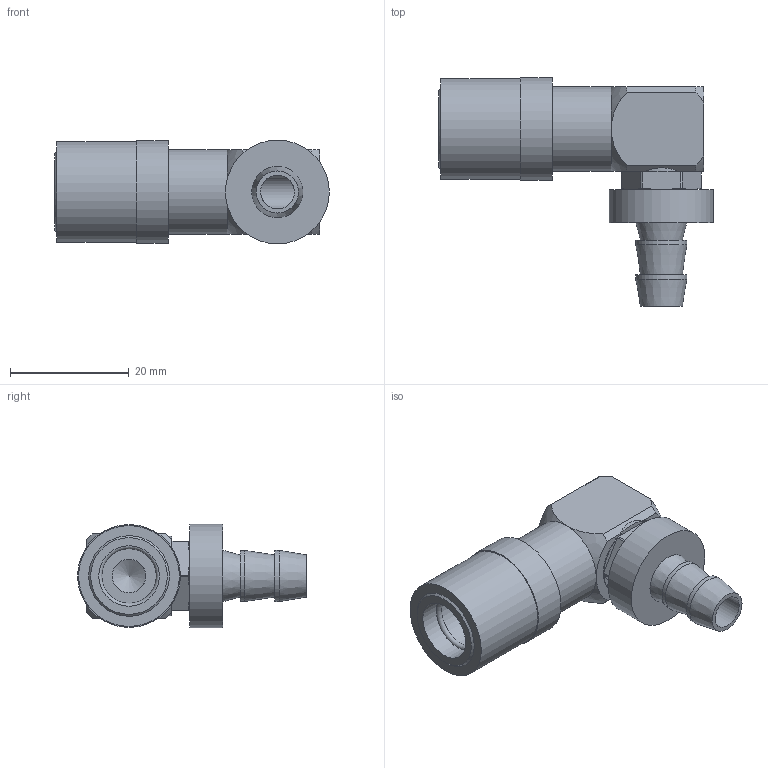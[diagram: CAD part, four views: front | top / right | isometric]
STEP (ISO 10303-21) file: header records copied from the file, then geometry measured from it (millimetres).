
FILE_DESCRIPTION(/* description */ ('STEP AP214'),/* implementation_level */ '2;1');
FILE_NAME(/* name */ 'JSL0214-SV',/* time_stamp */ '2024-12-19T09:17:51+01:00',/* author */ ('License CC BY-ND 4.0'),/* organization */ ('CADENAS'),/* preprocessor_version */ 'ST-DEVELOPER v19.3',/* originating_system */ 'PARTsolutions',/* authorisation */ ' ');
FILE_SCHEMA (('AUTOMOTIVE_DESIGN {1 0 10303 214 3 1 1}'));
Length unit declared in the file: inch
Products named in the file (1): JSL0214-SV
Bounding box: 46.34 x 38.61 x 17.53 mm (x, y, z)
Volume: 9175.5 mm3; surface area: 5391.7 mm2
Topology: 1 solids, 1 shells, 67 faces, 152 edges, 96 vertices
Faces by surface type: plane 35, cylinder 12, cone 11, sphere 8, torus 1
Full cylindrical faces by diameter (mm): 5.639 x1, 5.69 x1, 7.112 x1, 8.636 x2, 10.211 x2, 13.485 x1, 14.3 x1, 17.018 x1, 17.358 x1, 17.526 x1
Entity records: 1854 total; most frequent: CARTESIAN_POINT 359, DIRECTION 334, ORIENTED_EDGE 260, AXIS2_PLACEMENT_3D 150, EDGE_CURVE 130, FACE_BOUND 97, EDGE_LOOP 96, VERTEX_POINT 93
